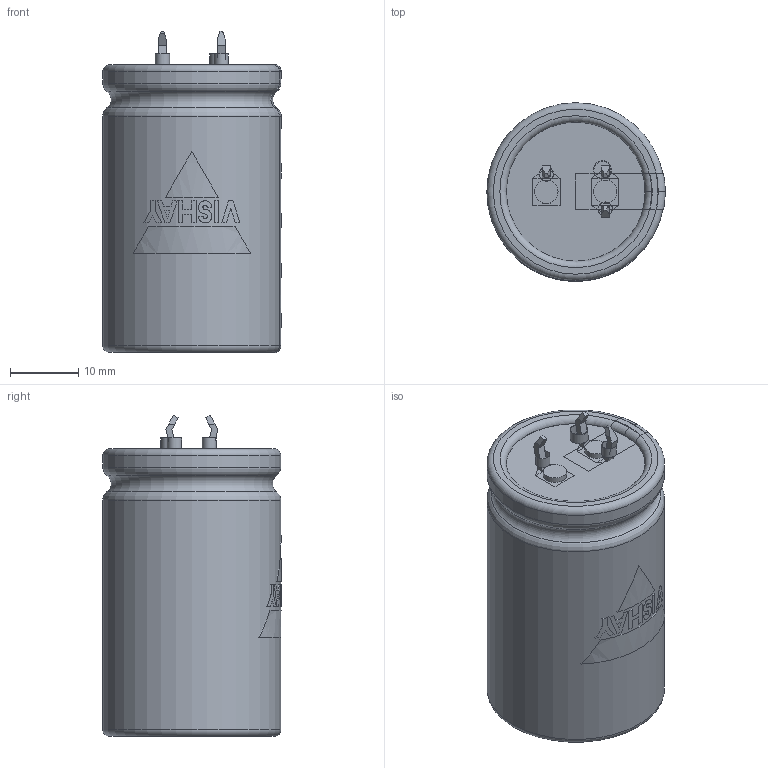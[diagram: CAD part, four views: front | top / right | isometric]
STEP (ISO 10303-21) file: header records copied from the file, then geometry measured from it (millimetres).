
FILE_DESCRIPTION(('FreeCAD Model'),'2;1');
FILE_NAME( 'C:/Users/Gebruiker/Documents/FreeCAD/SnapIn_25x40_3pin_4.0.step', '2020-11-12T21:09:23',('Author'),(''), 'Open CASCADE STEP processor 6.8','FreeCAD','Unknown');
FILE_SCHEMA(('AUTOMOTIVE_DESIGN_CC2 { 1 2 10303 214 -1 1 5 4 }'));
Length unit declared in the file: millimetre
Products named in the file (9): ASSEMBLY; TerminalPlus; Disc; BottomInsulation; Can3D; InkMinusBar; InkLogo; TerminalMinKP; PCBHolesKP
Assembly tree (8 placements, depth 2):
  ASSEMBLY
    TerminalPlus
    Disc
    BottomInsulation
    Can3D
    InkMinusBar
    InkLogo
    TerminalMinKP
    PCBHolesKP
Bounding box: 26.05 x 26.05 x 46.95 mm (x, y, z)
Volume: 25058.3 mm3; surface area: 10570.4 mm2
Topology: 17 solids, 17 shells, 213 faces, 524 edges, 342 vertices
Faces by surface type: plane 164, cylinder 31, torus 18
Full cylindrical faces by diameter (mm): 2 x2, 2.1 x2, 2.5 x1, 2.6 x1, 3.4 x2, 20.3 x1, 20.8 x2, 26 x2
Entity records: 21670 total; most frequent: CARTESIAN_POINT 9990, DIRECTION 1806, ORIENTED_EDGE 1048, PCURVE 1048, DEFINITIONAL_REPRESENTATION 1048, LINE 1013, VECTOR 1013, EDGE_CURVE 524
